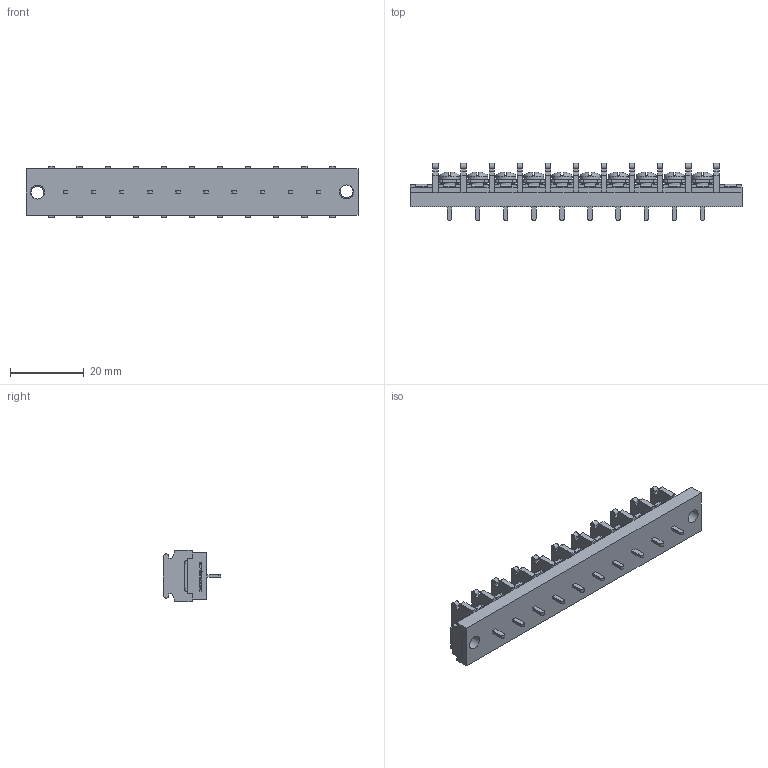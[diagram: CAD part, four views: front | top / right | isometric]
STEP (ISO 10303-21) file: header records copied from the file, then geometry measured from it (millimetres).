
FILE_DESCRIPTION(/* description */ ('Alibre Inc.'),/* implementation_level */ '2;1');
FILE_NAME(/* name */ 'export0',/* time_stamp */ '2015-10-23T19:21:25+09:00',/* author */ (''),/* organization */ (''),/* preprocessor_version */ 'ST-DEVELOPER v14',/* originating_system */ 'Alibre',/* authorisation */ '');
FILE_SCHEMA (('CONFIG_CONTROL_DESIGN'));
Length unit declared in the file: centimetre
Products named in the file (1): ID_1
Bounding box: 90.02 x 15.5 x 14 mm (x, y, z)
Volume: 8076.7 mm3; surface area: 7622.6 mm2
Topology: 1 solids, 1 shells, 1560 faces, 4280 edges, 2804 vertices
Faces by surface type: plane 1212, cylinder 164, bspline 104, cone 40, torus 20, sphere 20
Full cylindrical faces by diameter (mm): 3 x10, 3.5 x2, 3.8 x2, 5.5 x10
Entity records: 46869 total; most frequent: CARTESIAN_POINT 9877, ORIENTED_EDGE 8424, DIRECTION 5974, EDGE_CURVE 4212, VECTOR 3072, LINE 3072, VERTEX_POINT 2780, AXIS2_PLACEMENT_3D 2017
